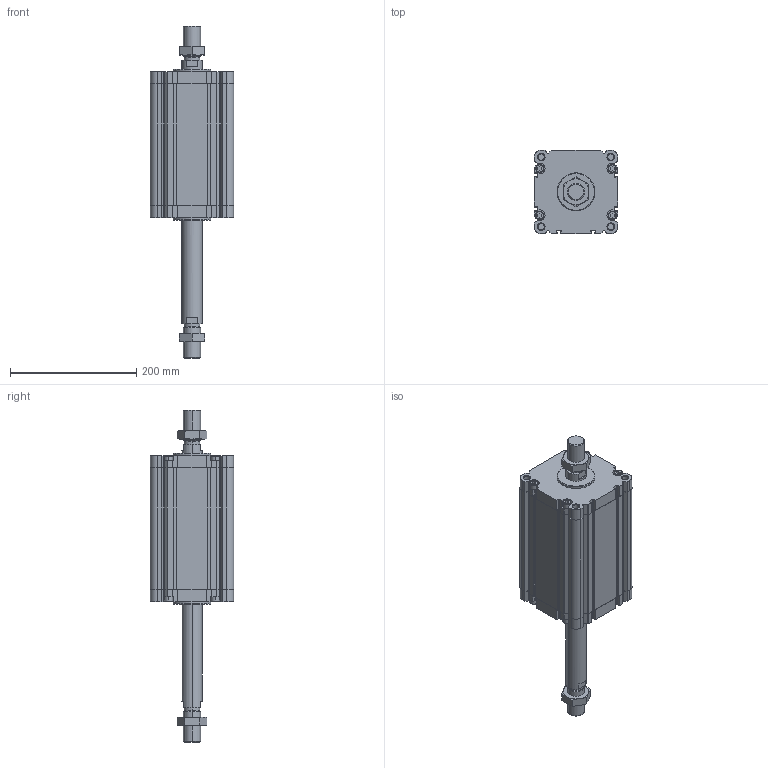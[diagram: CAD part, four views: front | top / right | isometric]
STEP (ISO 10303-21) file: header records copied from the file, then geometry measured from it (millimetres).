
FILE_DESCRIPTION (( 'STEP AP203' ), '1' );
FILE_NAME ('CDVU125-150M-P.STEP', '2020-07-21T16:46:26', ( '' ), ( '' ), 'SwSTEP 2.0', 'SolidWorks 2019', '' );
FILE_SCHEMA (( 'CONFIG_CONTROL_DESIGN' ));
Length unit declared in the file: millimetre
Products named in the file (1): CDVU125-150M-P
Bounding box: 132 x 132 x 525 mm (x, y, z)
Volume: 2409546.9 mm3; surface area: 364221.6 mm2
Topology: 4 solids, 4 shells, 702 faces, 1892 edges, 1230 vertices
Faces by surface type: plane 338, cylinder 280, cone 68, torus 16
Entity records: 22967 total; most frequent: CARTESIAN_POINT 4709, DIRECTION 3930, ORIENTED_EDGE 3776, EDGE_CURVE 1888, AXIS2_PLACEMENT_3D 1363, VERTEX_POINT 1230, VECTOR 1204, LINE 1204
